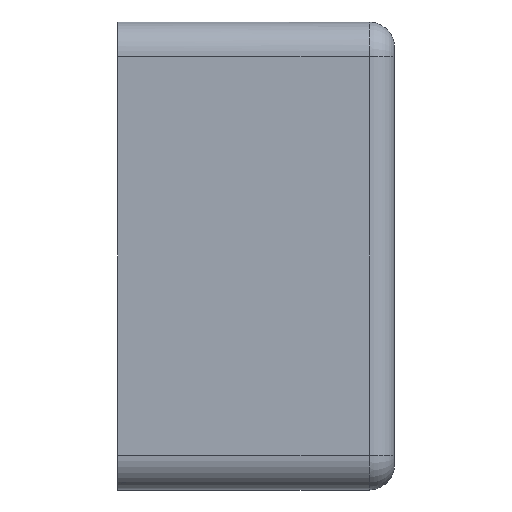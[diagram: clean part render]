
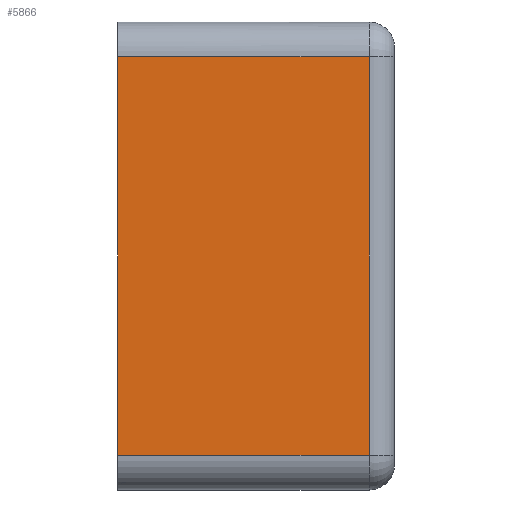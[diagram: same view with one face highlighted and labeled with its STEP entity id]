
A CAD part, left-side view. The second image highlights one B-rep face of the part: STEP entity #5866.
In plain terms, the highlighted planar face has unit normal (-1, 0, 0).
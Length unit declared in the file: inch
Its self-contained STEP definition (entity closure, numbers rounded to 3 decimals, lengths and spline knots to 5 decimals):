
#345 = VERTEX_POINT ( 'NONE', #41075 ) ;
#1629 = VERTEX_POINT ( 'NONE', #24056 ) ;
#5146 = EDGE_CURVE ( 'NONE', #11155, #345, #10678, .T. ) ;
#5866 = ADVANCED_FACE ( 'NONE', ( #14135 ), #35827, .T. ) ;
#7836 = ORIENTED_EDGE ( 'NONE', *, *, #5146, .T. ) ;
#10125 = CARTESIAN_POINT ( 'NONE',  ( -11.7122, -9.95764, -7.88652 ) ) ;
#10678 = LINE ( 'NONE', #25716, #39001 ) ;
#11155 = VERTEX_POINT ( 'NONE', #35337 ) ;
#13152 = CARTESIAN_POINT ( 'NONE',  ( -11.7122, -11.45968, 9.26152 ) ) ;
#14135 = FACE_OUTER_BOUND ( 'NONE', #41522, .T. ) ;
#17227 = CARTESIAN_POINT ( 'NONE',  ( -11.7122, -9.95764, 9.26152 ) ) ;
#17907 = VECTOR ( 'NONE', #46803, 39.37008 ) ;
#18855 = EDGE_CURVE ( 'NONE', #27127, #1629, #31765, .T. ) ;
#20704 = VECTOR ( 'NONE', #47322, 39.37008 ) ;
#24056 = CARTESIAN_POINT ( 'NONE',  ( -11.7122, -9.95764, 7.88652 ) ) ;
#24742 = DIRECTION ( 'NONE',  ( 0., 0., 1. ) ) ;
#25459 = VECTOR ( 'NONE', #44358, 39.37008 ) ;
#25481 = EDGE_CURVE ( 'NONE', #1629, #11155, #36224, .T. ) ;
#25716 = CARTESIAN_POINT ( 'NONE',  ( -11.7122, 0., -4.16976 ) ) ;
#26352 = EDGE_CURVE ( 'NONE', #345, #27127, #32783, .T. ) ;
#27127 = VERTEX_POINT ( 'NONE', #10125 ) ;
#29104 = CARTESIAN_POINT ( 'NONE',  ( -11.7122, -11.45968, -7.88652 ) ) ;
#29195 = DIRECTION ( 'NONE',  ( -1., 0., 0. ) ) ;
#31765 = LINE ( 'NONE', #17227, #17907 ) ;
#32783 = LINE ( 'NONE', #29104, #25459 ) ;
#35337 = CARTESIAN_POINT ( 'NONE',  ( -11.7122, 0., 7.88652 ) ) ;
#35827 = PLANE ( 'NONE',  #43808 ) ;
#36204 = ORIENTED_EDGE ( 'NONE', *, *, #18855, .T. ) ;
#36224 = LINE ( 'NONE', #40673, #20704 ) ;
#37041 = DIRECTION ( 'NONE',  ( 0., 0., -1. ) ) ;
#37227 = ORIENTED_EDGE ( 'NONE', *, *, #25481, .T. ) ;
#39001 = VECTOR ( 'NONE', #37041, 39.37008 ) ;
#40673 = CARTESIAN_POINT ( 'NONE',  ( -11.7122, -11.45968, 7.88652 ) ) ;
#41075 = CARTESIAN_POINT ( 'NONE',  ( -11.7122, 0., -7.88652 ) ) ;
#41522 = EDGE_LOOP ( 'NONE', ( #36204, #37227, #7836, #41863 ) ) ;
#41863 = ORIENTED_EDGE ( 'NONE', *, *, #26352, .T. ) ;
#43808 = AXIS2_PLACEMENT_3D ( 'NONE', #13152, #29195, #24742 ) ;
#44358 = DIRECTION ( 'NONE',  ( 0., -1., 0. ) ) ;
#46803 = DIRECTION ( 'NONE',  ( 0., 0., 1. ) ) ;
#47322 = DIRECTION ( 'NONE',  ( 0., 1., 0. ) ) ;
